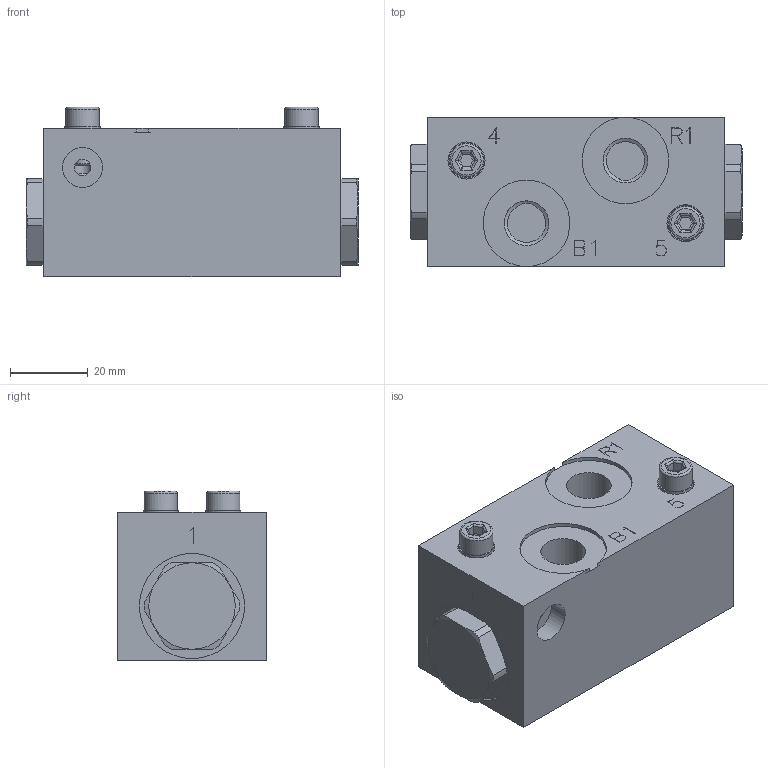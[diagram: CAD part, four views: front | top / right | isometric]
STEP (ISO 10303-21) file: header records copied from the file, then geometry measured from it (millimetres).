
FILE_DESCRIPTION(/* description */ ('Unknown'),/* implementation_level */ '2;1');
FILE_NAME(/* name */ 'RF LC2557',/* time_stamp */ '2022-11-07T10:12:00+00:00',/* author */ ('Unknown'),/* organization */ ('Unknown'),/* preprocessor_version */ 'ST-DEVELOPER v18.1',/* originating_system */ 'Solid Edge',/* authorisation */ 'Unknown');
FILE_SCHEMA (('AUTOMOTIVE_DESIGN {1 0 10303 214 3 1 1}'));
Length unit declared in the file: millimetre
Products named in the file (13): RF 2557075; M-2557; PT-SL-BM-005; PT-BT-SM05X010A; PT-OPP-M05-075; PT-CS-20050; PT-PTN-MD issu2; D-MA-CVA-00-0050-Complete; MA-CV-Body; MA-Nose; PT-OR-3-907-N70A; PT-BK-A-08-012A; PT-OR-2-012-N70A
Assembly tree (16 placements, depth 3):
  RF 2557075
    M-2557
    PT-SL-BM-005  x2
    PT-BT-SM05X010A  x2
    PT-OPP-M05-075  x2
    PT-CS-20050
    PT-PTN-MD issu2
    D-MA-CVA-00-0050-Complete  x2
      MA-CV-Body
      MA-Nose
      PT-OR-3-907-N70A
      PT-BK-A-08-012A
      PT-OR-2-012-N70A
Bounding box: 85.2 x 38.1 x 43.6 mm (x, y, z)
Volume: 114665 mm3; surface area: 27347.3 mm2
Topology: 19 solids, 19 shells, 669 faces, 1691 edges, 1094 vertices
Faces by surface type: plane 483, cylinder 110, cone 64, torus 12
Full cylindrical faces by diameter (mm): 0.75 x2, 2.1 x12, 3 x1, 4.2 x6, 4.8 x2, 5 x4, 5.5 x2, 8.5 x2, 8.7 x1, 8.737 x1, 9 x2, 9.5 x2, 10 x2, 10.2 x4, 11.3 x2, 11.5 x4, 12.6 x6, 12.7 x3, 14.348 x2, 14.46 x2, 16.48 x2, 26.975 x2
Entity records: 16361 total; most frequent: CARTESIAN_POINT 3727, ORIENTED_EDGE 2704, DIRECTION 1922, EDGE_CURVE 1352, VERTEX_POINT 932, B_SPLINE_CURVE_WITH_KNOTS 748, AXIS2_PLACEMENT_3D 739, FACE_BOUND 704
